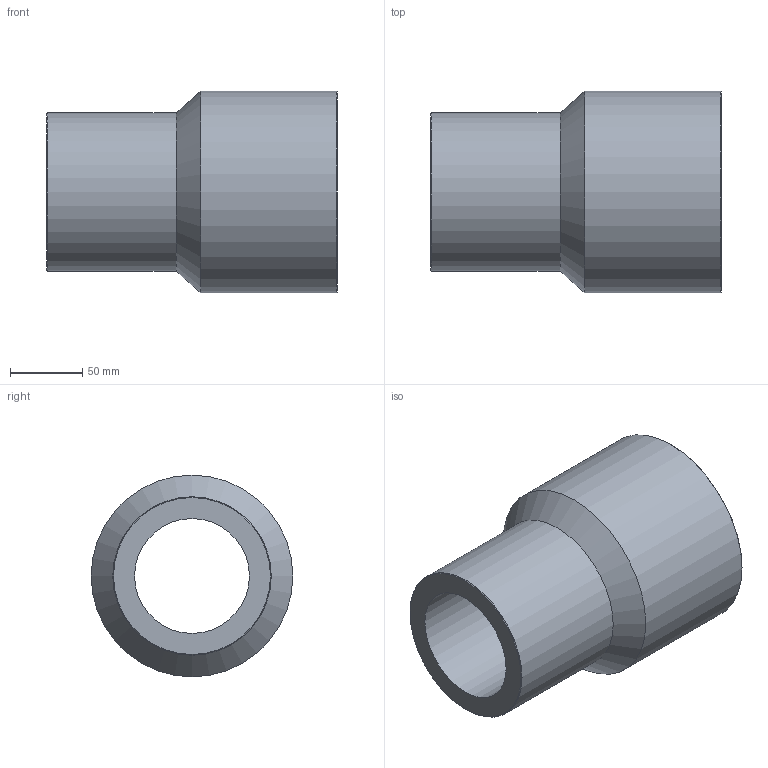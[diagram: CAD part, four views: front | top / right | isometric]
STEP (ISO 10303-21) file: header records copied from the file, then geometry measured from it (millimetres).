
FILE_DESCRIPTION(/* description */ ('Unknown'),/* implementation_level */ '2;1');
FILE_NAME(/* name */ 'RP140110H',/* time_stamp */ '2021-09-16T12:33:13+02:00',/* author */ ('Unknown'),/* organization */ ('Unknown'),/* preprocessor_version */ 'ST-DEVELOPER v16.7',/* originating_system */ 'Solid Edge',/* authorisation */ 'Unknown');
FILE_SCHEMA (('AUTOMOTIVE_DESIGN {1 0 10303 214 3 1 1}'));
Length unit declared in the file: millimetre
Products named in the file (1): RP140110H
Bounding box: 202 x 140 x 140 mm (x, y, z)
Volume: 1218283.4 mm3; surface area: 151506.1 mm2
Topology: 1 solids, 1 shells, 10 faces, 19 edges, 11 vertices
Faces by surface type: cylinder 4, cone 4, plane 2
Full cylindrical faces by diameter (mm): 79.8 x1, 101.6 x1, 110 x1, 140 x1
Entity records: 238 total; most frequent: DIRECTION 42, CARTESIAN_POINT 31, AXIS2_PLACEMENT_3D 21, ORIENTED_EDGE 20, EDGE_LOOP 20, FACE_BOUND 20, EDGE_CURVE 10, VERTEX_POINT 10
